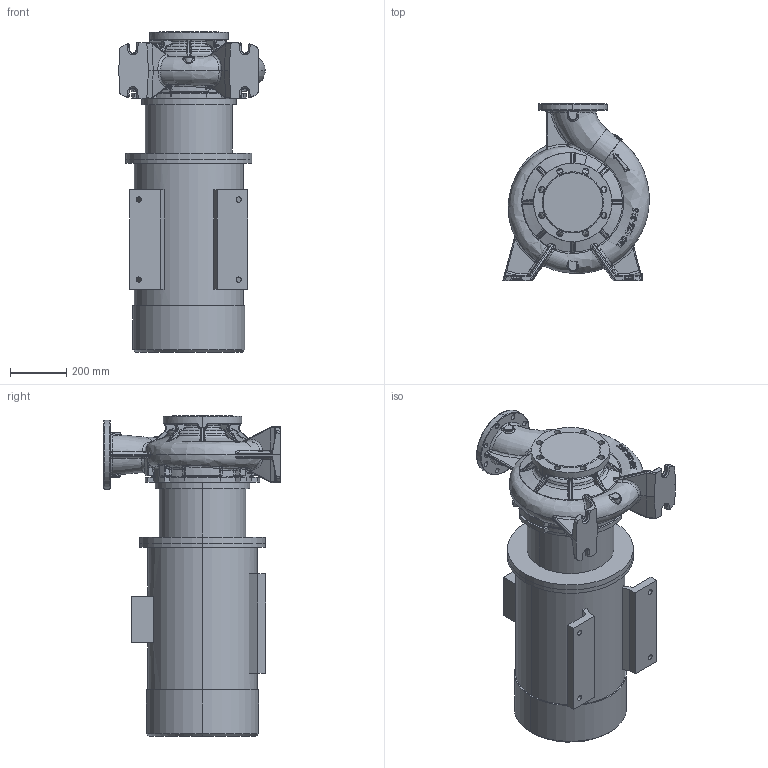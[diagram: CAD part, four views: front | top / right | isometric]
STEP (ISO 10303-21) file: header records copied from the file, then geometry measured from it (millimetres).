
FILE_DESCRIPTION (( 'STEP AP214' ), '1' );
FILE_NAME ('KRM 150-125-315-4-37.STEP', '2026-04-17T13:58:21', ( '' ), ( '' ), 'SwSTEP 2.0', 'SolidWorks 2016', '' );
FILE_SCHEMA (( 'AUTOMOTIVE_DESIGN' ));
Length unit declared in the file: millimetre
Products named in the file (1): KRM 150-125-315-4-37
Bounding box: 522.69 x 635 x 1145.8 mm (x, y, z)
Volume: 141300427.8 mm3; surface area: 3381152.2 mm2
Topology: 4 solids, 4 shells, 1437 faces, 3499 edges, 2073 vertices
Faces by surface type: bspline 625, cylinder 302, plane 269, torus 111, cone 91, sphere 39
Entity records: 172323 total; most frequent: CARTESIAN_POINT 127788, ORIENTED_EDGE 6926, DIRECTION 4753, EDGE_CURVE 3463, VERTEX_POINT 2073, AXIS2_PLACEMENT_3D 1995, EDGE_LOOP 1516, UNCERTAINTY_MEASURE_WITH_UNIT 1443
